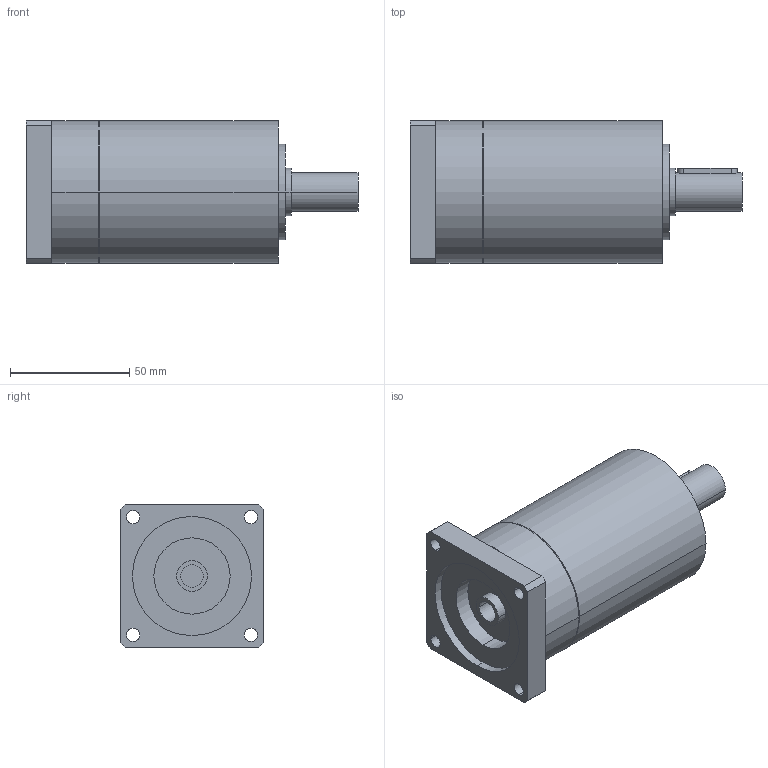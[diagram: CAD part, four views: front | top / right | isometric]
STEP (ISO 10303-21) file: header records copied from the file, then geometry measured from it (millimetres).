
FILE_DESCRIPTION(('CoCreate Modeling STEP Export'),'2;1');
FILE_NAME('GPR75_ig-9-12-16-20-24-30-36_16_B14_9.52_P20.stp','2014-08-25T16:06:51',(''),(''),'CoCreate Modeling STEP processor for AP214 (Solid Model)','CoCreate Modeling 16.00C 25-Feb-2009 (C) Parametric Technology GmbH','');
FILE_SCHEMA(('AUTOMOTIVE_DESIGN { 1 0 10303 214 1 1 1 1 }'));
Length unit declared in the file: millimetre
Products named in the file (2): GPR75_ig-9-12-16-20-24-30-36_16_B14_9.52_P20
Assembly tree (1 placements, depth 2):
  GPR75_ig-9-12-16-20-24-30-36_16_B14_9.52_P20
    GPR75_ig-9-12-16-20-24-30-36_16_B14_9.52_P20
Bounding box: 139.4 x 60 x 60 mm (x, y, z)
Volume: 302611.4 mm3; surface area: 33222.2 mm2
Topology: 1 solids, 1 shells, 70 faces, 187 edges, 131 vertices
Faces by surface type: cylinder 42, plane 22, cone 6
Entity records: 2018 total; most frequent: ORIENTED_EDGE 370, CARTESIAN_POINT 369, DIRECTION 270, EDGE_CURVE 185, VERTEX_POINT 131, AXIS2_PLACEMENT_3D 102, EDGE_LOOP 92, FACE_OUTER_BOUND 70
